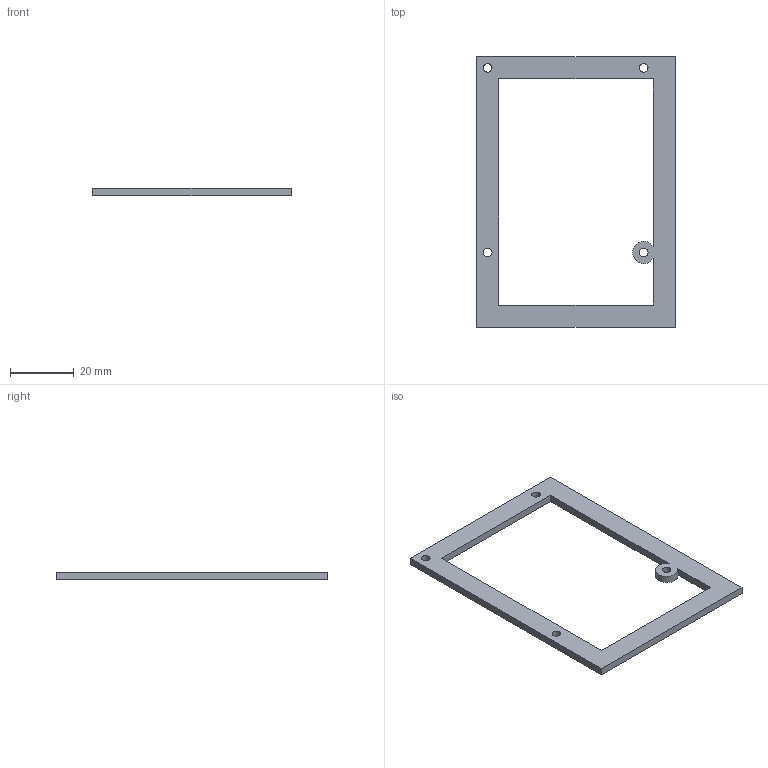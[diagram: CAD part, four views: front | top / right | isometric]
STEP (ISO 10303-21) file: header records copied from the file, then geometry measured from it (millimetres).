
FILE_DESCRIPTION(('FreeCAD Model'),'2;1');
FILE_NAME('Open CASCADE Shape Model','2026-09-11T13:41:27',( '' ),( '' ),'Open CASCADE STEP processor 7.8','FreeCAD','Unknown');
FILE_SCHEMA(('AUTOMOTIVE_DESIGN { 1 0 10303 214 1 1 1 1 }'));
Length unit declared in the file: millimetre
Products named in the file (1): Open CASCADE STEP translator 7.8 13
Bounding box: 62.46 x 85 x 2.4 mm (x, y, z)
Volume: 4518.5 mm3; surface area: 5162.6 mm2
Topology: 1 solids, 1 shells, 16 faces, 42 edges, 28 vertices
Faces by surface type: plane 11, cylinder 5
Full cylindrical faces by diameter (mm): 2.7 x4
Entity records: 526 total; most frequent: CARTESIAN_POINT 87, DIRECTION 86, ORIENTED_EDGE 84, EDGE_CURVE 42, LINE 32, VECTOR 32, VERTEX_POINT 28, AXIS2_PLACEMENT_3D 27
